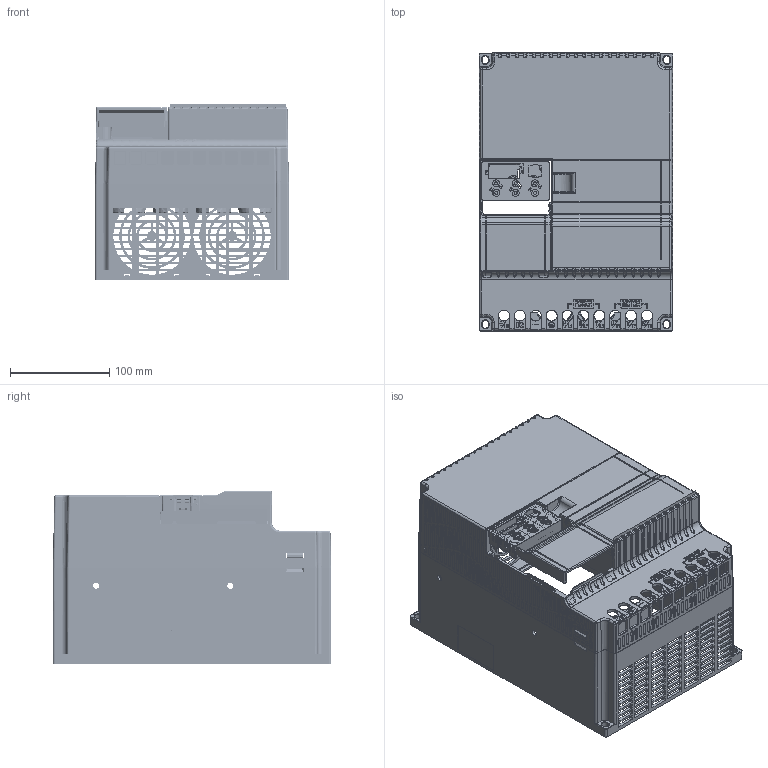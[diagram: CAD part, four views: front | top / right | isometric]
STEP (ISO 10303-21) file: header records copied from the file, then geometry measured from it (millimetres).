
FILE_DESCRIPTION (( 'STEP AP203' ), '1' );
FILE_NAME ('z2000-15_22kw (S14).STEP', '2019-05-24T13:46:07', ( '' ), ( '' ), 'SwSTEP 2.0', 'SolidWorks 2012', '' );
FILE_SCHEMA (( 'CONFIG_CONTROL_DESIGN' ));
Products named in the file (1): z2000-15_22kw (S14)
Bounding box: 195.05 x 280.05 x 176.58 mm (x, y, z)
Surface area: 530712.6 mm2 (no closed solid volume)
Topology: 0 solids, 53 shells, 5914 faces, 16857 edges, 11309 vertices
Faces by surface type: plane 3663, cylinder 1926, cone 170, bspline 153, torus 2
Entity records: 259073 total; most frequent: CARTESIAN_POINT 116016, ORIENTED_EDGE 33310, DIRECTION 23129, EDGE_CURVE 16842, VERTEX_POINT 11309, VECTOR 10223, LINE 10223, EDGE_LOOP 6606
